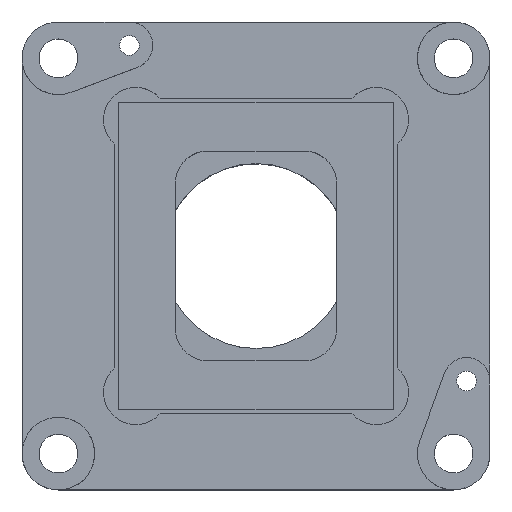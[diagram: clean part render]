
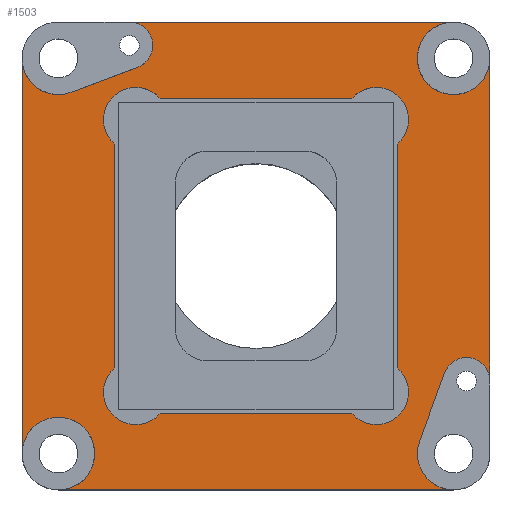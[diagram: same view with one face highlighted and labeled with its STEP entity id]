
A CAD part, top view. The second image highlights one B-rep face of the part: STEP entity #1503.
In plain terms, the highlighted planar face has unit normal (0, 0, 1).
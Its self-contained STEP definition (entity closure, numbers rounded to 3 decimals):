
#73=FACE_BOUND('',#179,.T.);
#92=FACE_OUTER_BOUND('',#178,.T.);
#178=EDGE_LOOP('',(#1011,#1012,#1013,#1014,#1015,#1016,#1017,#1018,#1019,
#1020,#1021,#1022,#1023,#1024));
#179=EDGE_LOOP('',(#1025,#1026,#1027,#1028,#1029,#1030,#1031,#1032));
#276=CIRCLE('',#1686,2.25);
#277=CIRCLE('',#1687,2.25);
#279=CIRCLE('',#1690,2.25);
#281=CIRCLE('',#1694,2.25);
#282=CIRCLE('',#1695,2.25);
#283=CIRCLE('',#1697,1.45);
#284=CIRCLE('',#1698,2.25);
#285=CIRCLE('',#1699,1.45);
#286=CIRCLE('',#1700,2.);
#287=CIRCLE('',#1701,2.);
#288=CIRCLE('',#1702,2.);
#289=CIRCLE('',#1703,2.);
#338=LINE('',#2303,#474);
#341=LINE('',#2310,#477);
#349=LINE('',#2334,#485);
#351=LINE('',#2344,#487);
#352=LINE('',#2348,#488);
#353=LINE('',#2351,#489);
#354=LINE('',#2355,#490);
#355=LINE('',#2359,#491);
#356=LINE('',#2363,#492);
#357=LINE('',#2367,#493);
#474=VECTOR('',#1860,10.);
#477=VECTOR('',#1865,10.);
#485=VECTOR('',#1889,10.);
#487=VECTOR('',#1901,10.);
#488=VECTOR('',#1904,10.);
#489=VECTOR('',#1907,10.);
#490=VECTOR('',#1910,10.);
#491=VECTOR('',#1913,10.);
#492=VECTOR('',#1916,10.);
#493=VECTOR('',#1919,10.);
#621=VERTEX_POINT('',#2299);
#622=VERTEX_POINT('',#2301);
#624=VERTEX_POINT('',#2307);
#625=VERTEX_POINT('',#2309);
#628=VERTEX_POINT('',#2317);
#629=VERTEX_POINT('',#2320);
#630=VERTEX_POINT('',#2324);
#632=VERTEX_POINT('',#2328);
#633=VERTEX_POINT('',#2332);
#635=VERTEX_POINT('',#2338);
#636=VERTEX_POINT('',#2343);
#637=VERTEX_POINT('',#2345);
#638=VERTEX_POINT('',#2347);
#639=VERTEX_POINT('',#2350);
#640=VERTEX_POINT('',#2353);
#641=VERTEX_POINT('',#2354);
#642=VERTEX_POINT('',#2356);
#643=VERTEX_POINT('',#2358);
#644=VERTEX_POINT('',#2360);
#645=VERTEX_POINT('',#2362);
#646=VERTEX_POINT('',#2364);
#647=VERTEX_POINT('',#2366);
#764=EDGE_CURVE('',#621,#622,#338,.T.);
#767=EDGE_CURVE('',#625,#624,#341,.T.);
#772=EDGE_CURVE('',#624,#628,#276,.T.);
#774=EDGE_CURVE('',#628,#629,#277,.T.);
#778=EDGE_CURVE('',#630,#632,#279,.T.);
#780=EDGE_CURVE('',#633,#630,#349,.T.);
#783=EDGE_CURVE('',#622,#635,#281,.T.);
#784=EDGE_CURVE('',#635,#633,#282,.T.);
#785=EDGE_CURVE('',#629,#636,#351,.T.);
#786=EDGE_CURVE('',#636,#637,#283,.T.);
#787=EDGE_CURVE('',#637,#638,#352,.T.);
#788=EDGE_CURVE('',#638,#621,#284,.T.);
#789=EDGE_CURVE('',#632,#639,#353,.T.);
#790=EDGE_CURVE('',#639,#625,#285,.T.);
#791=EDGE_CURVE('',#640,#641,#354,.T.);
#792=EDGE_CURVE('',#641,#642,#286,.T.);
#793=EDGE_CURVE('',#642,#643,#355,.T.);
#794=EDGE_CURVE('',#643,#644,#287,.T.);
#795=EDGE_CURVE('',#644,#645,#356,.T.);
#796=EDGE_CURVE('',#645,#646,#288,.T.);
#797=EDGE_CURVE('',#646,#647,#357,.T.);
#798=EDGE_CURVE('',#647,#640,#289,.T.);
#1011=ORIENTED_EDGE('',*,*,#772,.T.);
#1012=ORIENTED_EDGE('',*,*,#774,.T.);
#1013=ORIENTED_EDGE('',*,*,#785,.T.);
#1014=ORIENTED_EDGE('',*,*,#786,.T.);
#1015=ORIENTED_EDGE('',*,*,#787,.T.);
#1016=ORIENTED_EDGE('',*,*,#788,.T.);
#1017=ORIENTED_EDGE('',*,*,#764,.T.);
#1018=ORIENTED_EDGE('',*,*,#783,.T.);
#1019=ORIENTED_EDGE('',*,*,#784,.T.);
#1020=ORIENTED_EDGE('',*,*,#780,.T.);
#1021=ORIENTED_EDGE('',*,*,#778,.T.);
#1022=ORIENTED_EDGE('',*,*,#789,.T.);
#1023=ORIENTED_EDGE('',*,*,#790,.T.);
#1024=ORIENTED_EDGE('',*,*,#767,.T.);
#1025=ORIENTED_EDGE('',*,*,#791,.T.);
#1026=ORIENTED_EDGE('',*,*,#792,.T.);
#1027=ORIENTED_EDGE('',*,*,#793,.T.);
#1028=ORIENTED_EDGE('',*,*,#794,.T.);
#1029=ORIENTED_EDGE('',*,*,#795,.T.);
#1030=ORIENTED_EDGE('',*,*,#796,.T.);
#1031=ORIENTED_EDGE('',*,*,#797,.T.);
#1032=ORIENTED_EDGE('',*,*,#798,.T.);
#1385=PLANE('',#1696);
#1503=ADVANCED_FACE('',(#92,#73),#1385,.T.);
#1686=AXIS2_PLACEMENT_3D('',#2319,#1873,#1874);
#1687=AXIS2_PLACEMENT_3D('',#2322,#1876,#1877);
#1690=AXIS2_PLACEMENT_3D('',#2330,#1884,#1885);
#1694=AXIS2_PLACEMENT_3D('',#2340,#1895,#1896);
#1695=AXIS2_PLACEMENT_3D('',#2341,#1897,#1898);
#1696=AXIS2_PLACEMENT_3D('',#2342,#1899,#1900);
#1697=AXIS2_PLACEMENT_3D('',#2346,#1902,#1903);
#1698=AXIS2_PLACEMENT_3D('',#2349,#1905,#1906);
#1699=AXIS2_PLACEMENT_3D('',#2352,#1908,#1909);
#1700=AXIS2_PLACEMENT_3D('',#2357,#1911,#1912);
#1701=AXIS2_PLACEMENT_3D('',#2361,#1914,#1915);
#1702=AXIS2_PLACEMENT_3D('',#2365,#1917,#1918);
#1703=AXIS2_PLACEMENT_3D('',#2368,#1920,#1921);
#1860=DIRECTION('',(0.,-1.,0.));
#1865=DIRECTION('',(0.,1.,0.));
#1873=DIRECTION('center_axis',(0.,0.,-1.));
#1874=DIRECTION('ref_axis',(-1.,0.,0.));
#1876=DIRECTION('center_axis',(0.,0.,-1.));
#1877=DIRECTION('ref_axis',(-1.,0.,0.));
#1884=DIRECTION('center_axis',(0.,0.,-1.));
#1885=DIRECTION('ref_axis',(-1.,0.,0.));
#1889=DIRECTION('',(1.,0.,0.));
#1895=DIRECTION('center_axis',(0.,0.,-1.));
#1896=DIRECTION('ref_axis',(-1.,0.,0.));
#1897=DIRECTION('center_axis',(0.,0.,-1.));
#1898=DIRECTION('ref_axis',(-1.,0.,0.));
#1899=DIRECTION('center_axis',(0.,0.,1.));
#1900=DIRECTION('ref_axis',(1.,0.,0.));
#1901=DIRECTION('',(-1.,0.,0.));
#1902=DIRECTION('center_axis',(0.,0.,-1.));
#1903=DIRECTION('ref_axis',(0.352,-0.936,0.));
#1904=DIRECTION('',(-0.936,-0.352,0.));
#1905=DIRECTION('center_axis',(0.,0.,-1.));
#1906=DIRECTION('ref_axis',(-1.,0.,0.));
#1907=DIRECTION('',(0.345,0.939,0.));
#1908=DIRECTION('center_axis',(0.,0.,-1.));
#1909=DIRECTION('ref_axis',(1.,0.,0.));
#1910=DIRECTION('',(-1.,0.,0.));
#1911=DIRECTION('center_axis',(0.,0.,-1.));
#1912=DIRECTION('ref_axis',(-1.,0.,0.));
#1913=DIRECTION('',(0.,1.,0.));
#1914=DIRECTION('center_axis',(0.,0.,-1.));
#1915=DIRECTION('ref_axis',(-1.,0.,0.));
#1916=DIRECTION('',(1.,0.,0.));
#1917=DIRECTION('center_axis',(0.,0.,-1.));
#1918=DIRECTION('ref_axis',(-1.,0.,0.));
#1919=DIRECTION('',(0.,-1.,0.));
#1920=DIRECTION('center_axis',(0.,0.,-1.));
#1921=DIRECTION('ref_axis',(-1.,0.,0.));
#2299=CARTESIAN_POINT('',(-14.5,12.25,2.3));
#2301=CARTESIAN_POINT('',(-14.5,-12.25,2.3));
#2303=CARTESIAN_POINT('',(-14.5,-14.5,2.3));
#2307=CARTESIAN_POINT('',(14.5,12.25,2.3));
#2309=CARTESIAN_POINT('',(14.5,-7.75,2.3));
#2310=CARTESIAN_POINT('',(14.5,14.5,2.3));
#2317=CARTESIAN_POINT('',(10.659,10.659,2.3));
#2319=CARTESIAN_POINT('Origin',(12.25,12.25,2.3));
#2320=CARTESIAN_POINT('',(12.25,14.5,2.3));
#2322=CARTESIAN_POINT('Origin',(12.25,12.25,2.3));
#2324=CARTESIAN_POINT('',(12.25,-14.5,2.3));
#2328=CARTESIAN_POINT('',(10.138,-11.475,2.3));
#2330=CARTESIAN_POINT('Origin',(12.25,-12.25,2.3));
#2332=CARTESIAN_POINT('',(-12.25,-14.5,2.3));
#2334=CARTESIAN_POINT('',(14.5,-14.5,2.3));
#2338=CARTESIAN_POINT('',(-10.659,-10.659,2.3));
#2340=CARTESIAN_POINT('Origin',(-12.25,-12.25,2.3));
#2341=CARTESIAN_POINT('Origin',(-12.25,-12.25,2.3));
#2342=CARTESIAN_POINT('Origin',(0.,0.,2.3));
#2343=CARTESIAN_POINT('',(-7.85,14.5,2.3));
#2344=CARTESIAN_POINT('',(-14.5,14.5,2.3));
#2345=CARTESIAN_POINT('',(-7.34,11.693,2.3));
#2346=CARTESIAN_POINT('Origin',(-7.85,13.05,2.3));
#2347=CARTESIAN_POINT('',(-11.458,10.144,2.3));
#2348=CARTESIAN_POINT('',(-8.11,11.403,2.3));
#2349=CARTESIAN_POINT('Origin',(-12.25,12.25,2.3));
#2350=CARTESIAN_POINT('',(11.689,-7.25,2.3));
#2351=CARTESIAN_POINT('',(12.167,-5.947,2.3));
#2352=CARTESIAN_POINT('Origin',(13.05,-7.75,2.3));
#2353=CARTESIAN_POINT('',(5.93,-9.75,2.3));
#2354=CARTESIAN_POINT('',(-5.93,-9.75,2.3));
#2355=CARTESIAN_POINT('',(4.375,-9.75,2.3));
#2356=CARTESIAN_POINT('',(-8.75,-6.93,2.3));
#2357=CARTESIAN_POINT('Origin',(-7.45,-8.45,2.3));
#2358=CARTESIAN_POINT('',(-8.75,6.93,2.3));
#2359=CARTESIAN_POINT('',(-8.75,-4.875,2.3));
#2360=CARTESIAN_POINT('',(-5.93,9.75,2.3));
#2361=CARTESIAN_POINT('Origin',(-7.45,8.45,2.3));
#2362=CARTESIAN_POINT('',(5.93,9.75,2.3));
#2363=CARTESIAN_POINT('',(-4.375,9.75,2.3));
#2364=CARTESIAN_POINT('',(8.75,6.93,2.3));
#2365=CARTESIAN_POINT('Origin',(7.45,8.45,2.3));
#2366=CARTESIAN_POINT('',(8.75,-6.93,2.3));
#2367=CARTESIAN_POINT('',(8.75,4.875,2.3));
#2368=CARTESIAN_POINT('Origin',(7.45,-8.45,2.3));
